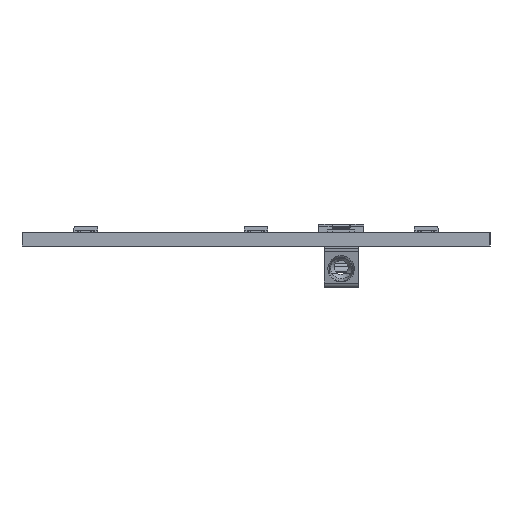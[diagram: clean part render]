
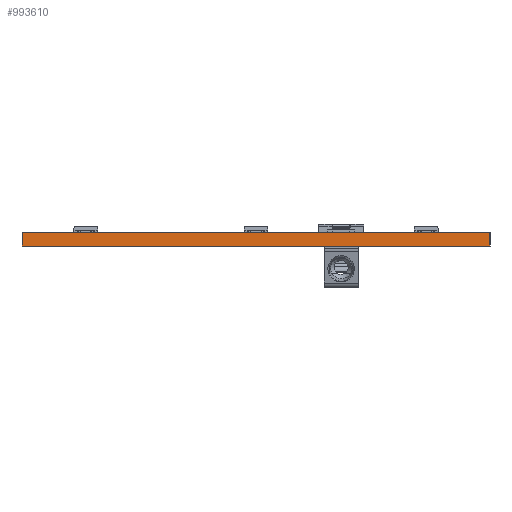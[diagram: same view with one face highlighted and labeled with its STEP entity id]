
A CAD part, left-side view. The second image highlights one B-rep face of the part: STEP entity #993610.
In plain terms, the highlighted planar face has unit normal (-1, 0, 0).
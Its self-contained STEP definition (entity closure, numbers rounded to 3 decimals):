
#981370=CARTESIAN_POINT('',(0.,55.,0.));
#981380=VERTEX_POINT('',#981370);
#981530=CARTESIAN_POINT('',(0.,0.,0.));
#981540=VERTEX_POINT('',#981530);
#981570=CARTESIAN_POINT('',(0.,55.,0.));
#981580=DIRECTION('',(0.,-1.,0.));
#981590=VECTOR('',#981580,0.039);
#981600=LINE('',#981570,#981590);
#981610=EDGE_CURVE('',#981380,#981540,#981600,.T.);
#987380=CARTESIAN_POINT('',(0.,55.,-1.6));
#987390=DIRECTION('',(0.,-1.,0.));
#987400=VECTOR('',#987390,0.039);
#987410=LINE('',#987380,#987400);
#987420=CARTESIAN_POINT('',(0.,55.,-1.6));
#987430=VERTEX_POINT('',#987420);
#987440=CARTESIAN_POINT('',(0.,0.,-1.6));
#987450=VERTEX_POINT('',#987440);
#987460=EDGE_CURVE('',#987430,#987450,#987410,.T.);
#993400=CARTESIAN_POINT('',(0.,0.,0.));
#993410=DIRECTION('',(1.,0.,0.));
#993420=DIRECTION('',(0.,-1.,0.));
#993430=AXIS2_PLACEMENT_3D('',#993400,#993410,#993420);
#993440=PLANE('',#993430);
#993450=ORIENTED_EDGE('',*,*,#981610,.F.);
#993460=CARTESIAN_POINT('',(0.,0.,0.));
#993470=DIRECTION('',(0.,0.,-1.));
#993480=VECTOR('',#993470,1.);
#993490=LINE('',#993460,#993480);
#993500=EDGE_CURVE('',#981540,#987450,#993490,.T.);
#993510=ORIENTED_EDGE('',*,*,#993500,.F.);
#993520=ORIENTED_EDGE('',*,*,#987460,.T.);
#993530=CARTESIAN_POINT('',(0.,55.,0.));
#993540=DIRECTION('',(0.,0.,-1.));
#993550=VECTOR('',#993540,1.);
#993560=LINE('',#993530,#993550);
#993570=EDGE_CURVE('',#981380,#987430,#993560,.T.);
#993580=ORIENTED_EDGE('',*,*,#993570,.T.);
#993590=EDGE_LOOP('',(#993580,#993520,#993510,#993450));
#993600=FACE_OUTER_BOUND('',#993590,.T.);
#993610=ADVANCED_FACE('',(#993600),#993440,.F.);
